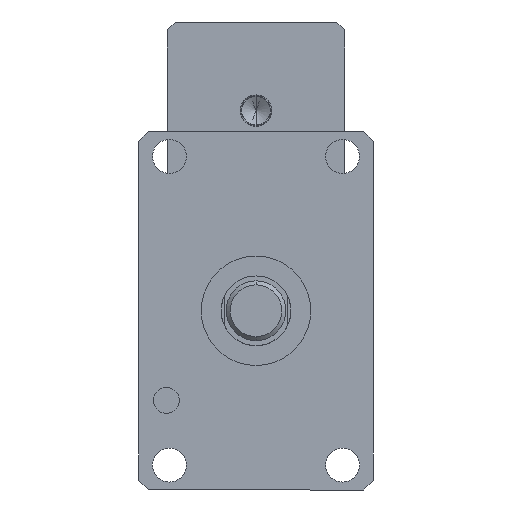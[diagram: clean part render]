
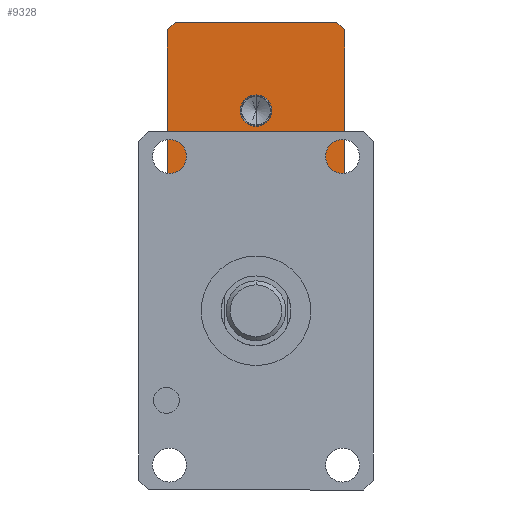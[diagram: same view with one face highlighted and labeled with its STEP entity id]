
A CAD part, front view. The second image highlights one B-rep face of the part: STEP entity #9328.
In plain terms, the highlighted planar face has unit normal (0, -1, 0).
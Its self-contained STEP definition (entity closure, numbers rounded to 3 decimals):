
#65 = CARTESIAN_POINT ( 'NONE',  ( 44.5, 260., 60. ) ) ;
#120 = EDGE_CURVE ( 'NONE', #9157, #8205, #3962, .T. ) ;
#160 = EDGE_LOOP ( 'NONE', ( #7006, #1838, #1152, #4793, #6752, #3488, #9592, #7309 ) ) ;
#215 = VERTEX_POINT ( 'NONE', #5904 ) ;
#292 = EDGE_CURVE ( 'NONE', #8205, #6861, #4114, .T. ) ;
#680 = EDGE_LOOP ( 'NONE', ( #10253, #11778 ) ) ;
#843 = CARTESIAN_POINT ( 'NONE',  ( -44.5, 260., 145. ) ) ;
#983 = VERTEX_POINT ( 'NONE', #9138 ) ;
#1028 = CARTESIAN_POINT ( 'NONE',  ( -40.5, 260., 56. ) ) ;
#1130 = CARTESIAN_POINT ( 'NONE',  ( 44.5, 260., 60. ) ) ;
#1152 = ORIENTED_EDGE ( 'NONE', *, *, #120, .T. ) ;
#1380 = CIRCLE ( 'NONE', #7070, 7.903 ) ;
#1429 = CARTESIAN_POINT ( 'NONE',  ( 44.5, 260., 145. ) ) ;
#1483 = AXIS2_PLACEMENT_3D ( 'NONE', #4944, #11656, #5900 ) ;
#1733 = VECTOR ( 'NONE', #8173, 1000. ) ;
#1838 = ORIENTED_EDGE ( 'NONE', *, *, #9075, .T. ) ;
#2322 = FACE_BOUND ( 'NONE', #680, .T. ) ;
#2570 = AXIS2_PLACEMENT_3D ( 'NONE', #1429, #10153, #4390 ) ;
#2720 = EDGE_CURVE ( 'NONE', #4655, #11445, #9906, .T. ) ;
#2832 = EDGE_CURVE ( 'NONE', #4655, #6861, #9294, .T. ) ;
#3051 = VECTOR ( 'NONE', #10849, 1000. ) ;
#3422 = CARTESIAN_POINT ( 'NONE',  ( -40.5, 260., 145. ) ) ;
#3488 = ORIENTED_EDGE ( 'NONE', *, *, #2720, .T. ) ;
#3712 = LINE ( 'NONE', #6518, #5979 ) ;
#3962 = LINE ( 'NONE', #7860, #3051 ) ;
#4114 = LINE ( 'NONE', #1130, #11801 ) ;
#4390 = DIRECTION ( 'NONE',  ( 0., 0., 1. ) ) ;
#4655 = VERTEX_POINT ( 'NONE', #8491 ) ;
#4793 = ORIENTED_EDGE ( 'NONE', *, *, #292, .T. ) ;
#4894 = DIRECTION ( 'NONE',  ( 0., -1., 0. ) ) ;
#4918 = FACE_OUTER_BOUND ( 'NONE', #160, .T. ) ;
#4944 = CARTESIAN_POINT ( 'NONE',  ( 0., 260., 100.5 ) ) ;
#5389 = VECTOR ( 'NONE', #10582, 1000. ) ;
#5787 = CARTESIAN_POINT ( 'NONE',  ( -44.5, 260., 60. ) ) ;
#5900 = DIRECTION ( 'NONE',  ( 0., 0., -1. ) ) ;
#5904 = CARTESIAN_POINT ( 'NONE',  ( -44.5, 260., 60. ) ) ;
#5965 = LINE ( 'NONE', #5787, #5389 ) ;
#5979 = VECTOR ( 'NONE', #7426, 1000. ) ;
#6002 = VERTEX_POINT ( 'NONE', #9780 ) ;
#6448 = CARTESIAN_POINT ( 'NONE',  ( 0., 260., 108.403 ) ) ;
#6467 = CARTESIAN_POINT ( 'NONE',  ( 40.5, 260., 145. ) ) ;
#6518 = CARTESIAN_POINT ( 'NONE',  ( 44.5, 260., 145. ) ) ;
#6662 = CARTESIAN_POINT ( 'NONE',  ( 44.5, 260., 145. ) ) ;
#6752 = ORIENTED_EDGE ( 'NONE', *, *, #2832, .F. ) ;
#6861 = VERTEX_POINT ( 'NONE', #65 ) ;
#6929 = DIRECTION ( 'NONE',  ( 0.707, 0., 0.707 ) ) ;
#7006 = ORIENTED_EDGE ( 'NONE', *, *, #7184, .T. ) ;
#7070 = AXIS2_PLACEMENT_3D ( 'NONE', #10662, #4894, #11624 ) ;
#7184 = EDGE_CURVE ( 'NONE', #6002, #215, #10526, .T. ) ;
#7309 = ORIENTED_EDGE ( 'NONE', *, *, #7505, .T. ) ;
#7338 = VECTOR ( 'NONE', #10349, 1000. ) ;
#7426 = DIRECTION ( 'NONE',  ( 1., 0., 0. ) ) ;
#7505 = EDGE_CURVE ( 'NONE', #10283, #6002, #9435, .T. ) ;
#7547 = CARTESIAN_POINT ( 'NONE',  ( 40.5, 260., 56. ) ) ;
#7573 = EDGE_CURVE ( 'NONE', #10283, #11445, #3712, .T. ) ;
#7617 = DIRECTION ( 'NONE',  ( 0., 0., -1. ) ) ;
#7625 = VECTOR ( 'NONE', #7617, 1000. ) ;
#7860 = CARTESIAN_POINT ( 'NONE',  ( 44.5, 260., 56. ) ) ;
#8158 = PLANE ( 'NONE',  #2570 ) ;
#8173 = DIRECTION ( 'NONE',  ( -0.707, 0., -0.707 ) ) ;
#8205 = VERTEX_POINT ( 'NONE', #7547 ) ;
#8491 = CARTESIAN_POINT ( 'NONE',  ( 44.5, 260., 141. ) ) ;
#8974 = VECTOR ( 'NONE', #12463, 1000. ) ;
#9075 = EDGE_CURVE ( 'NONE', #215, #9157, #5965, .T. ) ;
#9138 = CARTESIAN_POINT ( 'NONE',  ( 0., 260., 92.597 ) ) ;
#9150 = EDGE_CURVE ( 'NONE', #983, #11398, #9868, .T. ) ;
#9157 = VERTEX_POINT ( 'NONE', #1028 ) ;
#9294 = LINE ( 'NONE', #6662, #8974 ) ;
#9328 = ADVANCED_FACE ( 'NONE', ( #2322, #4918 ), #8158, .F. ) ;
#9388 = EDGE_CURVE ( 'NONE', #11398, #983, #1380, .T. ) ;
#9435 = LINE ( 'NONE', #3422, #1733 ) ;
#9592 = ORIENTED_EDGE ( 'NONE', *, *, #7573, .F. ) ;
#9780 = CARTESIAN_POINT ( 'NONE',  ( -44.5, 260., 141. ) ) ;
#9868 = CIRCLE ( 'NONE', #1483, 7.903 ) ;
#9906 = LINE ( 'NONE', #6467, #7338 ) ;
#10153 = DIRECTION ( 'NONE',  ( 0., 1., 0. ) ) ;
#10253 = ORIENTED_EDGE ( 'NONE', *, *, #9150, .F. ) ;
#10283 = VERTEX_POINT ( 'NONE', #10400 ) ;
#10349 = DIRECTION ( 'NONE',  ( -0.707, 0., 0.707 ) ) ;
#10378 = CARTESIAN_POINT ( 'NONE',  ( 40.5, 260., 145. ) ) ;
#10400 = CARTESIAN_POINT ( 'NONE',  ( -40.5, 260., 145. ) ) ;
#10526 = LINE ( 'NONE', #843, #7625 ) ;
#10582 = DIRECTION ( 'NONE',  ( 0.707, 0., -0.707 ) ) ;
#10662 = CARTESIAN_POINT ( 'NONE',  ( 0., 260., 100.5 ) ) ;
#10849 = DIRECTION ( 'NONE',  ( 1., 0., 0. ) ) ;
#11398 = VERTEX_POINT ( 'NONE', #6448 ) ;
#11445 = VERTEX_POINT ( 'NONE', #10378 ) ;
#11624 = DIRECTION ( 'NONE',  ( 0., 0., -1. ) ) ;
#11656 = DIRECTION ( 'NONE',  ( 0., -1., 0. ) ) ;
#11778 = ORIENTED_EDGE ( 'NONE', *, *, #9388, .F. ) ;
#11801 = VECTOR ( 'NONE', #6929, 1000. ) ;
#12463 = DIRECTION ( 'NONE',  ( 0., 0., -1. ) ) ;
